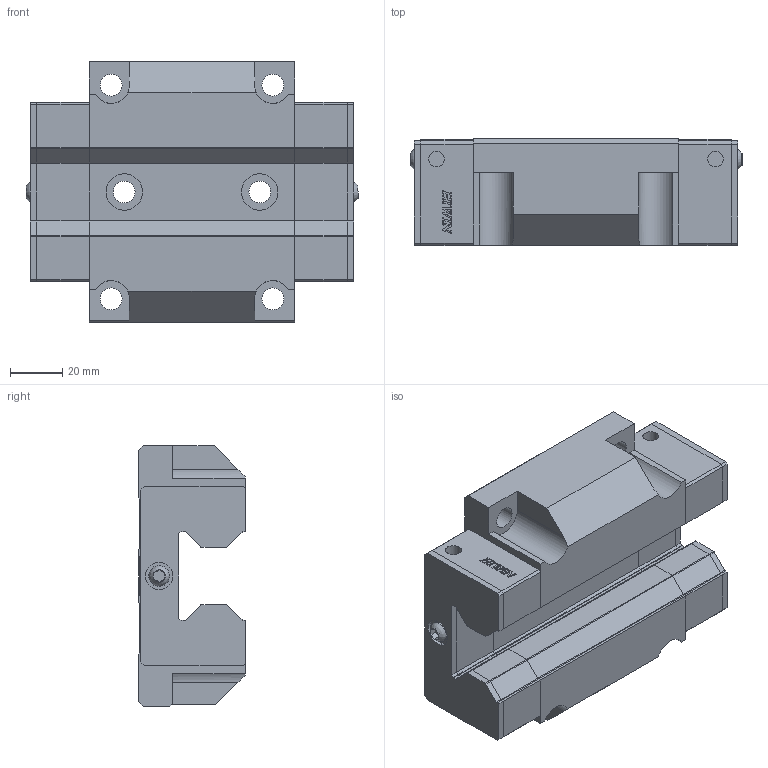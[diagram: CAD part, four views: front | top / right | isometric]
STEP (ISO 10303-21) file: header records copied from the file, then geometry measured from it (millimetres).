
FILE_DESCRIPTION(/* description */ (''),/* implementation_level */ '2;1');
FILE_NAME(/* name */ 'URW35CCZAH_GW202603049619.stp',/* time_stamp */ '2026-03-30T22:46:46+08:00',/* author */ ('user'),/* organization */ (''),/* preprocessor_version */ 'ST-DEVELOPER v20.1',/* originating_system */ 'Autodesk Inventor 2026',/* authorisation */ '');
FILE_SCHEMA (('AUTOMOTIVE_DESIGN { 1 0 10303 214 3 1 1 }'));
Products named in the file (3): URW35CCZAH_GW202603049619; URW35C_左封; 31010069
Assembly tree (3 placements, depth 2):
  URW35CCZAH_GW202603049619
    URW35C_左封
    31010069  x2
Bounding box: 127.4 x 41 x 100 mm (x, y, z)
Volume: 324221.7 mm3; surface area: 65145 mm2
Topology: 7 solids, 7 shells, 536 faces, 1486 edges, 990 vertices
Faces by surface type: plane 394, cylinder 140, bspline 2
Full cylindrical faces by diameter (mm): 1.5 x2, 6 x6, 6.5 x2, 8 x2, 8.376 x6, 10.3 x2, 10.5 x2, 14 x2
Entity records: 16904 total; most frequent: CARTESIAN_POINT 2988, ORIENTED_EDGE 2920, DIRECTION 2798, EDGE_CURVE 1460, LINE 1178, VECTOR 1178, VERTEX_POINT 973, AXIS2_PLACEMENT_3D 810
